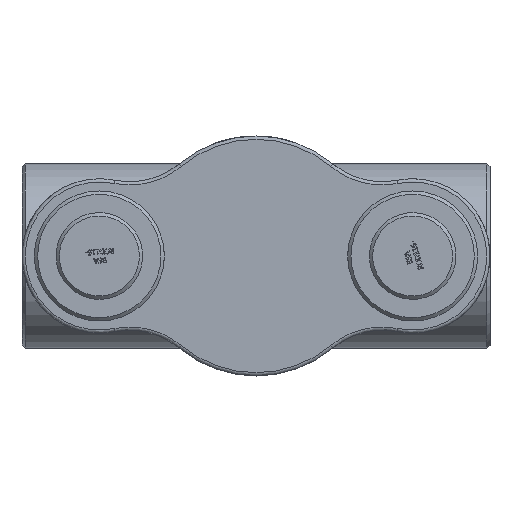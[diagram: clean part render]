
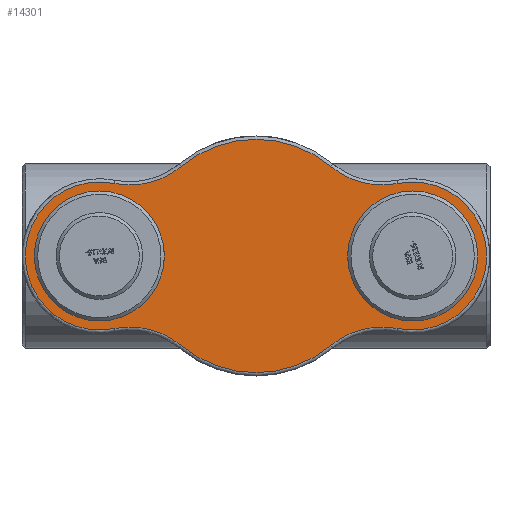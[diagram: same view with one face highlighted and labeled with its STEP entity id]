
A CAD part, front view. The second image highlights one B-rep face of the part: STEP entity #14301.
In plain terms, the highlighted planar face has unit normal (0, -1, 0) as drawn and (0, 0, -1) by its records, which use the part's own axes.
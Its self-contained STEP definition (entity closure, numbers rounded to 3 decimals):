
#3751=PLANE('',#15223);
#4170=FACE_BOUND('',#5105,.T.);
#4171=FACE_BOUND('',#5106,.T.);
#4271=FACE_OUTER_BOUND('',#5104,.T.);
#5104=EDGE_LOOP('',(#9888,#9889,#9890,#9891,#9892,#9893,#9894,#9895));
#5105=EDGE_LOOP('',(#9896));
#5106=EDGE_LOOP('',(#9897));
#6036=CIRCLE('',#15222,73.);
#6037=CIRCLE('',#15224,111.);
#6038=CIRCLE('',#15225,121.);
#6039=CIRCLE('',#15226,175.);
#6040=CIRCLE('',#15227,121.);
#6041=CIRCLE('',#15228,111.);
#6042=CIRCLE('',#15229,121.);
#6043=CIRCLE('',#15230,175.);
#6044=CIRCLE('',#15231,121.);
#6045=CIRCLE('',#15232,73.);
#6226=VERTEX_POINT('',#18731);
#6227=VERTEX_POINT('',#18734);
#6228=VERTEX_POINT('',#18735);
#6229=VERTEX_POINT('',#18737);
#6230=VERTEX_POINT('',#18739);
#6231=VERTEX_POINT('',#18741);
#6232=VERTEX_POINT('',#18743);
#6233=VERTEX_POINT('',#18745);
#6234=VERTEX_POINT('',#18747);
#6235=VERTEX_POINT('',#18750);
#7690=EDGE_CURVE('',#6226,#6226,#6036,.T.);
#7691=EDGE_CURVE('',#6227,#6228,#6037,.T.);
#7692=EDGE_CURVE('',#6229,#6227,#6038,.T.);
#7693=EDGE_CURVE('',#6230,#6229,#6039,.T.);
#7694=EDGE_CURVE('',#6231,#6230,#6040,.T.);
#7695=EDGE_CURVE('',#6232,#6231,#6041,.T.);
#7696=EDGE_CURVE('',#6233,#6232,#6042,.T.);
#7697=EDGE_CURVE('',#6234,#6233,#6043,.T.);
#7698=EDGE_CURVE('',#6228,#6234,#6044,.T.);
#7699=EDGE_CURVE('',#6235,#6235,#6045,.T.);
#9888=ORIENTED_EDGE('',*,*,#7691,.F.);
#9889=ORIENTED_EDGE('',*,*,#7692,.F.);
#9890=ORIENTED_EDGE('',*,*,#7693,.F.);
#9891=ORIENTED_EDGE('',*,*,#7694,.F.);
#9892=ORIENTED_EDGE('',*,*,#7695,.F.);
#9893=ORIENTED_EDGE('',*,*,#7696,.F.);
#9894=ORIENTED_EDGE('',*,*,#7697,.F.);
#9895=ORIENTED_EDGE('',*,*,#7698,.F.);
#9896=ORIENTED_EDGE('',*,*,#7699,.F.);
#9897=ORIENTED_EDGE('',*,*,#7690,.F.);
#14301=ADVANCED_FACE('',(#4271,#4170,#4171),#3751,.F.);
#15222=AXIS2_PLACEMENT_3D('',#18732,#15965,#15966);
#15223=AXIS2_PLACEMENT_3D('',#18733,#15967,#15968);
#15224=AXIS2_PLACEMENT_3D('',#18736,#15969,#15970);
#15225=AXIS2_PLACEMENT_3D('',#18738,#15971,#15972);
#15226=AXIS2_PLACEMENT_3D('',#18740,#15973,#15974);
#15227=AXIS2_PLACEMENT_3D('',#18742,#15975,#15976);
#15228=AXIS2_PLACEMENT_3D('',#18744,#15977,#15978);
#15229=AXIS2_PLACEMENT_3D('',#18746,#15979,#15980);
#15230=AXIS2_PLACEMENT_3D('',#18748,#15981,#15982);
#15231=AXIS2_PLACEMENT_3D('',#18749,#15983,#15984);
#15232=AXIS2_PLACEMENT_3D('',#18751,#15985,#15986);
#15965=DIRECTION('center_axis',(0.,0.,-1.));
#15966=DIRECTION('ref_axis',(1.,0.,0.));
#15967=DIRECTION('center_axis',(0.,0.,1.));
#15968=DIRECTION('ref_axis',(1.,0.,0.));
#15969=DIRECTION('center_axis',(0.,0.,1.));
#15970=DIRECTION('ref_axis',(-1.,0.,0.));
#15971=DIRECTION('center_axis',(0.,0.,-1.));
#15972=DIRECTION('ref_axis',(0.246,-0.969,0.));
#15973=DIRECTION('center_axis',(0.,0.,1.));
#15974=DIRECTION('ref_axis',(0.,1.,0.));
#15975=DIRECTION('center_axis',(0.,0.,-1.));
#15976=DIRECTION('ref_axis',(-0.246,-0.969,0.));
#15977=DIRECTION('center_axis',(0.,0.,1.));
#15978=DIRECTION('ref_axis',(1.,0.,0.));
#15979=DIRECTION('center_axis',(0.,0.,-1.));
#15980=DIRECTION('ref_axis',(-0.246,0.969,0.));
#15981=DIRECTION('center_axis',(0.,0.,1.));
#15982=DIRECTION('ref_axis',(0.,-1.,0.));
#15983=DIRECTION('center_axis',(0.,0.,-1.));
#15984=DIRECTION('ref_axis',(0.246,0.969,0.));
#15985=DIRECTION('center_axis',(0.,0.,-1.));
#15986=DIRECTION('ref_axis',(1.,0.,0.));
#18731=CARTESIAN_POINT('',(162.,0.,0.));
#18732=CARTESIAN_POINT('Origin',(235.,0.,0.));
#18733=CARTESIAN_POINT('Origin',(0.,0.,
0.));
#18734=CARTESIAN_POINT('',(-213.182,108.835,0.));
#18735=CARTESIAN_POINT('',(-213.182,-108.835,0.));
#18736=CARTESIAN_POINT('Origin',(-235.,0.,0.));
#18737=CARTESIAN_POINT('',(-111.975,134.486,0.));
#18738=CARTESIAN_POINT('Origin',(-189.398,227.474,0.));
#18739=CARTESIAN_POINT('',(111.975,134.486,0.));
#18740=CARTESIAN_POINT('Origin',(0.,0.,0.));
#18741=CARTESIAN_POINT('',(213.182,108.835,0.));
#18742=CARTESIAN_POINT('Origin',(189.398,227.474,0.));
#18743=CARTESIAN_POINT('',(213.182,-108.835,0.));
#18744=CARTESIAN_POINT('Origin',(235.,0.,0.));
#18745=CARTESIAN_POINT('',(111.975,-134.486,0.));
#18746=CARTESIAN_POINT('Origin',(189.398,-227.474,0.));
#18747=CARTESIAN_POINT('',(-111.975,-134.486,0.));
#18748=CARTESIAN_POINT('Origin',(0.,0.,0.));
#18749=CARTESIAN_POINT('Origin',(-189.398,-227.474,0.));
#18750=CARTESIAN_POINT('',(-308.,0.,0.));
#18751=CARTESIAN_POINT('Origin',(-235.,0.,0.));
